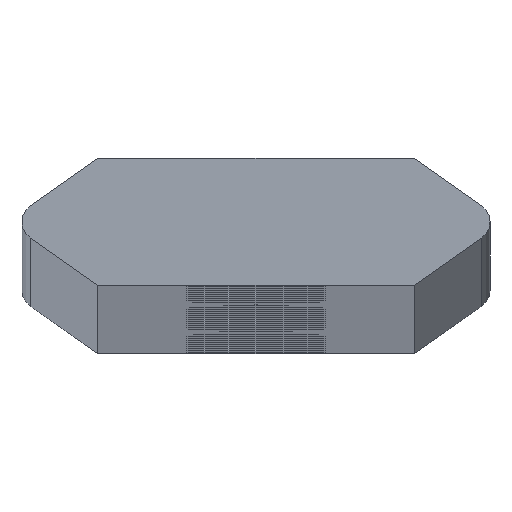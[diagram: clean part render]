
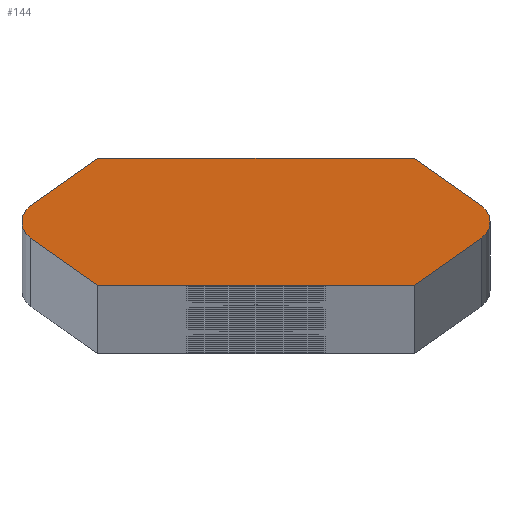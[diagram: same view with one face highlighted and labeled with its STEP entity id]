
A CAD part, top view. The second image highlights one B-rep face of the part: STEP entity #144.
In plain terms, the highlighted planar face has unit normal (0, 0, 1).
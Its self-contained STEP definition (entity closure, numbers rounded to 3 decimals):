
#144=ADVANCED_FACE('',(#292),#293,.T.);
#292=FACE_OUTER_BOUND('',#514,.T.);
#293=PLANE('',#515);
#514=EDGE_LOOP('',(#1081,#1082,#1083,#1084,#1085,#1086,#1087,#1088,#1089,#1090));
#515=AXIS2_PLACEMENT_3D('',#1091,#1092,#1093);
#1081=ORIENTED_EDGE('',*,*,#1293,.T.);
#1082=ORIENTED_EDGE('',*,*,#1496,.T.);
#1083=ORIENTED_EDGE('',*,*,#1497,.F.);
#1084=ORIENTED_EDGE('',*,*,#1498,.F.);
#1085=ORIENTED_EDGE('',*,*,#1499,.F.);
#1086=ORIENTED_EDGE('',*,*,#1289,.T.);
#1087=ORIENTED_EDGE('',*,*,#1500,.T.);
#1088=ORIENTED_EDGE('',*,*,#1501,.F.);
#1089=ORIENTED_EDGE('',*,*,#1502,.F.);
#1090=ORIENTED_EDGE('',*,*,#1503,.F.);
#1091=CARTESIAN_POINT('',(0.,0.,986.0));
#1092=DIRECTION('',(0.0,0.0,1.0));
#1093=DIRECTION('',(1.0,0.0,0.0));
#1289=EDGE_CURVE('',#1519,#1516,#1520,.T.);
#1293=EDGE_CURVE('',#1527,#1524,#1528,.T.);
#1496=EDGE_CURVE('',#1524,#1864,#1866,.T.);
#1497=EDGE_CURVE('',#1867,#1864,#1868,.T.);
#1498=EDGE_CURVE('',#1869,#1867,#1870,.T.);
#1499=EDGE_CURVE('',#1519,#1869,#1871,.T.);
#1500=EDGE_CURVE('',#1516,#1872,#1873,.T.);
#1501=EDGE_CURVE('',#1874,#1872,#1875,.T.);
#1502=EDGE_CURVE('',#1876,#1874,#1877,.T.);
#1503=EDGE_CURVE('',#1527,#1876,#1878,.T.);
#1516=VERTEX_POINT('',#1896);
#1519=VERTEX_POINT('',#1900);
#1520=CIRCLE('',#1901,0.5);
#1524=VERTEX_POINT('',#1906);
#1527=VERTEX_POINT('',#1910);
#1528=CIRCLE('',#1911,0.5);
#1864=VERTEX_POINT('',#2314);
#1866=CIRCLE('',#2317,0.5);
#1867=VERTEX_POINT('',#2318);
#1868=LINE('',#2319,#2320);
#1869=VERTEX_POINT('',#2321);
#1870=LINE('',#2322,#2323);
#1871=LINE('',#2324,#2325);
#1872=VERTEX_POINT('',#2326);
#1873=CIRCLE('',#2327,0.5);
#1874=VERTEX_POINT('',#2328);
#1875=LINE('',#2329,#2330);
#1876=VERTEX_POINT('',#2331);
#1877=LINE('',#2332,#2333);
#1878=LINE('',#2334,#2335);
#1896=CARTESIAN_POINT('',(5.903,0.,986.0));
#1900=CARTESIAN_POINT('',(5.693,-0.407,986.0));
#1901=AXIS2_PLACEMENT_3D('',#2365,#2366,#2367);
#1906=CARTESIAN_POINT('',(-5.903,0.,986.0));
#1910=CARTESIAN_POINT('',(-5.693,0.407,986.0));
#1911=AXIS2_PLACEMENT_3D('',#2373,#2374,#2375);
#2314=CARTESIAN_POINT('',(-5.693,-0.407,986.0));
#2317=AXIS2_PLACEMENT_3D('',#2846,#2847,#2848);
#2318=CARTESIAN_POINT('',(-3.99,-1.6,986.0));
#2319=CARTESIAN_POINT('',(-6.275,0.,986.0));
#2320=VECTOR('',#2849,1.0);
#2321=CARTESIAN_POINT('',(3.99,-1.6,986.0));
#2322=CARTESIAN_POINT('',(3.99,-1.6,986.0));
#2323=VECTOR('',#2850,1.0);
#2324=CARTESIAN_POINT('',(6.275,0.0,986.0));
#2325=VECTOR('',#2851,1.0);
#2326=CARTESIAN_POINT('',(5.693,0.407,986.0));
#2327=AXIS2_PLACEMENT_3D('',#2852,#2853,#2854);
#2328=CARTESIAN_POINT('',(3.99,1.6,986.0));
#2329=CARTESIAN_POINT('',(6.275,0.0,986.0));
#2330=VECTOR('',#2855,1.0);
#2331=CARTESIAN_POINT('',(-3.99,1.6,986.0));
#2332=CARTESIAN_POINT('',(-3.99,1.6,986.0));
#2333=VECTOR('',#2856,1.0);
#2334=CARTESIAN_POINT('',(-6.275,0.,986.0));
#2335=VECTOR('',#2857,1.0);
#2365=CARTESIAN_POINT('',(5.403,0.0,986.0));
#2366=DIRECTION('',(0.0,0.0,1.0));
#2367=DIRECTION('',(1.0,0.0,0.0));
#2373=CARTESIAN_POINT('',(-5.403,0.,986.0));
#2374=DIRECTION('',(0.0,0.0,1.0));
#2375=DIRECTION('',(-1.0,0.,0.0));
#2846=CARTESIAN_POINT('',(-5.403,0.,986.0));
#2847=DIRECTION('',(0.0,0.0,1.0));
#2848=DIRECTION('',(-1.0,0.,0.0));
#2849=DIRECTION('',(-0.819,0.574,0.0));
#2850=DIRECTION('',(-1.0,0.0,0.0));
#2851=DIRECTION('',(-0.819,-0.574,0.0));
#2852=CARTESIAN_POINT('',(5.403,0.0,986.0));
#2853=DIRECTION('',(0.0,0.0,1.0));
#2854=DIRECTION('',(1.0,0.0,0.0));
#2855=DIRECTION('',(0.819,-0.574,0.0));
#2856=DIRECTION('',(1.0,0.,0.0));
#2857=DIRECTION('',(0.819,0.574,0.0));
